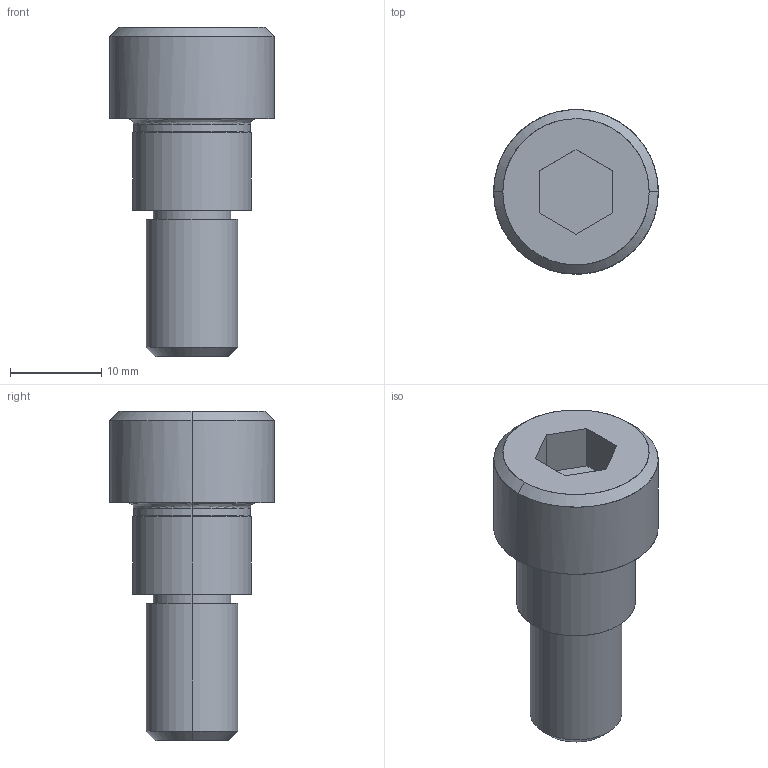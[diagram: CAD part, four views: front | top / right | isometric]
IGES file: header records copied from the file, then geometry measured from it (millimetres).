
Global section: file name: E:\UnigraphicsGraphicData\MISUMI_PRESS-PARTS\IGES\3d_msb13-10_00573_r00.igs; native system: NX V5.0; preprocessor: UGS NX IGES V5.0; author: MISUMI; date: 20110105.161513; units: millimetre
Bounding box: 18 x 18 x 36 mm (x, y, z)
Surface area: 2104.9 mm2 (no closed solid volume)
Topology: 0 solids, 0 shells, 30 faces, 172 edges, 172 vertices
Faces by surface type: bspline 30
